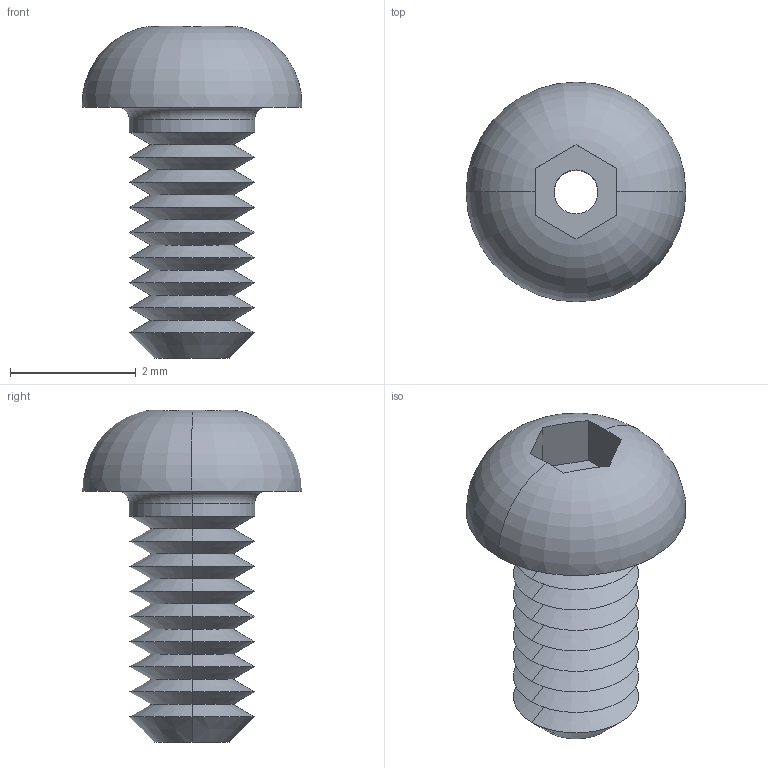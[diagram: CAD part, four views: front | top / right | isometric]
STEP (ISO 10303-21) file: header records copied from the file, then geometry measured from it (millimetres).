
FILE_DESCRIPTION (( 'STEP AP203' ), '1' );
FILE_NAME ('Default.step', '2019-07-12T16:48:38', ( '' ), ( '' ), 'SwSTEP 2.0', 'SolidWorks 2017', '' );
FILE_SCHEMA (( 'CONFIG_CONTROL_DESIGN' ));
Length unit declared in the file: millimetre
Products named in the file (1): Default
Bounding box: 3.5 x 3.5 x 5.29 mm (x, y, z)
Volume: 15.6 mm3; surface area: 75.7 mm2
Topology: 1 solids, 1 shells, 51 faces, 108 edges, 60 vertices
Faces by surface type: cone 34, plane 9, cylinder 4, torus 4
Entity records: 1445 total; most frequent: CARTESIAN_POINT 256, DIRECTION 254, ORIENTED_EDGE 216, EDGE_CURVE 108, AXIS2_PLACEMENT_3D 102, VERTEX_POINT 60, EDGE_LOOP 54, FACE_OUTER_BOUND 51
